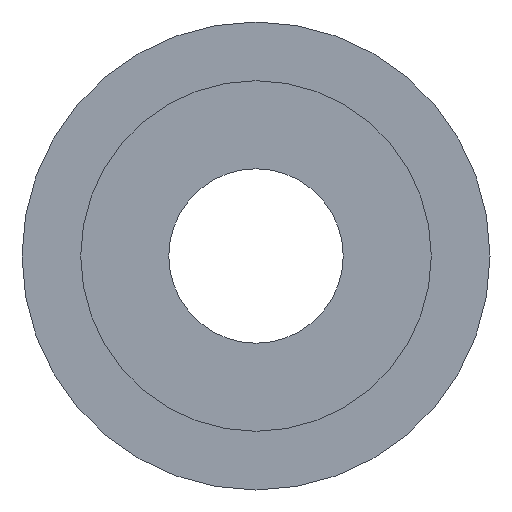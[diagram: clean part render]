
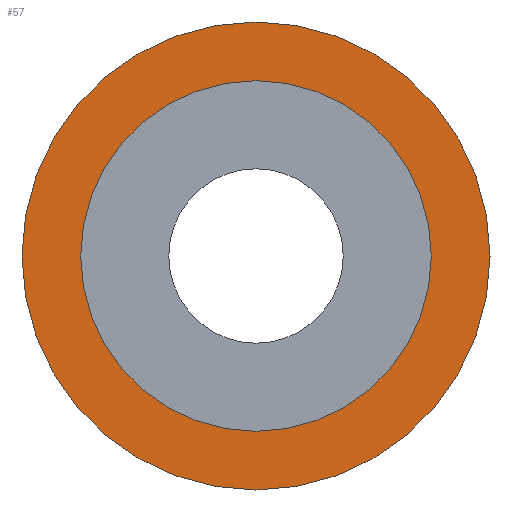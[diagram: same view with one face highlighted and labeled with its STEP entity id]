
A CAD part, left-side view. The second image highlights one B-rep face of the part: STEP entity #57.
In plain terms, the highlighted planar face has unit normal (-1, 0, 0).
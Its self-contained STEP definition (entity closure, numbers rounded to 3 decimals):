
#57 = ADVANCED_FACE( '', ( #122, #123 ), #124, .T. );
#122 = FACE_OUTER_BOUND( '', #189, .T. );
#123 = FACE_BOUND( '', #190, .T. );
#124 = PLANE( '', #191 );
#189 = EDGE_LOOP( '', ( #268 ) );
#190 = EDGE_LOOP( '', ( #269 ) );
#191 = AXIS2_PLACEMENT_3D( '', #270, #271, #272 );
#268 = ORIENTED_EDGE( '', *, *, #311, .T. );
#269 = ORIENTED_EDGE( '', *, *, #325, .F. );
#270 = CARTESIAN_POINT( '', ( -40., 0., 20.6 ) );
#271 = DIRECTION( '', ( -1., 0., 0. ) );
#272 = DIRECTION( '', ( 0., 0., 1. ) );
#311 = EDGE_CURVE( '', #346, #346, #347, .T. );
#325 = EDGE_CURVE( '', #367, #367, #368, .T. );
#346 = VERTEX_POINT( '', #391 );
#347 = CIRCLE( '', #392, 27.5 );
#367 = VERTEX_POINT( '', #412 );
#368 = CIRCLE( '', #413, 20.6 );
#391 = CARTESIAN_POINT( '', ( -40., 0., 27.5 ) );
#392 = AXIS2_PLACEMENT_3D( '', #438, #439, #440 );
#412 = CARTESIAN_POINT( '', ( -40., 0., 20.6 ) );
#413 = AXIS2_PLACEMENT_3D( '', #459, #460, #461 );
#438 = CARTESIAN_POINT( '', ( -40., 0., 0. ) );
#439 = DIRECTION( '', ( -1., 0., 0. ) );
#440 = DIRECTION( '', ( 0., 0., 1. ) );
#459 = CARTESIAN_POINT( '', ( -40., 0., 0. ) );
#460 = DIRECTION( '', ( -1., 0., 0. ) );
#461 = DIRECTION( '', ( 0., 0., 1. ) );
